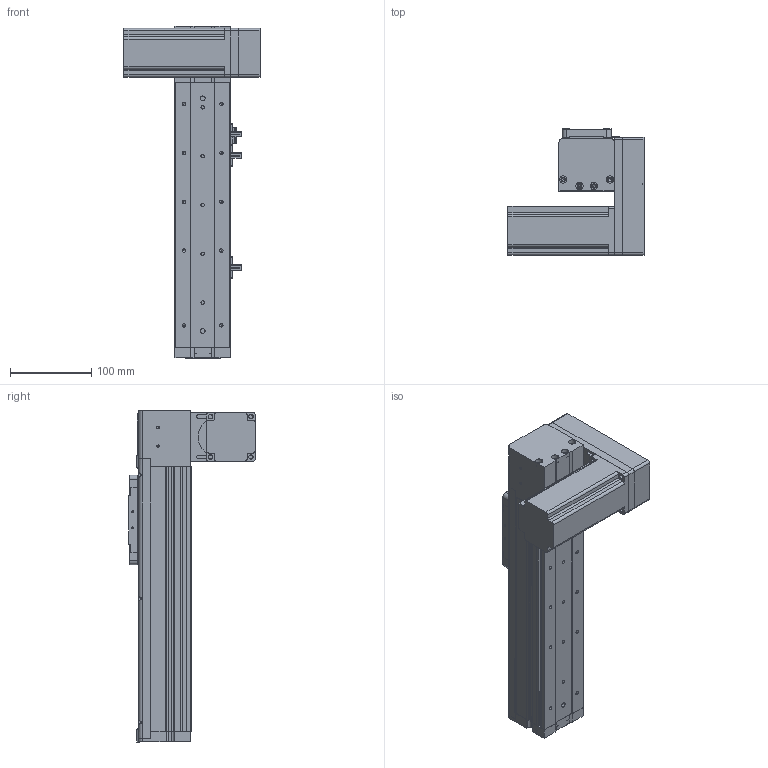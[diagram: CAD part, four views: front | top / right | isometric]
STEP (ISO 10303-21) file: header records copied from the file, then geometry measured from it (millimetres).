
FILE_DESCRIPTION (( 'STEP AP214' ), '1' );
FILE_NAME ('KSD68BS-S150-MLD-CR.STEP', '2019-11-07T05:24:46', ( '微软用户' ), ( '微软中国' ), 'SwSTEP 2.0', 'SolidWorks 2014', '' );
FILE_SCHEMA (( 'AUTOMOTIVE_DESIGN' ));
Length unit declared in the file: millimetre
Products named in the file (14): 68宽马达安装板连板上折同步带; 感应片68宽全封闭; U倰嫖萇EEㄜSX672; 台达ECMA－C20604AS伺服电机（400W); KSD68BS 150行程底板全封闭; KSD68BS-S150-MLD-CR; 68遵裔啣揤啣1; KSD68BS 150行程盖板全封闭; 68宽单导轨全封闭丝杆传动安装板1防护罩; KSD68BS 150行程侧板全封闭; 68宽单导轨全封闭同步带端板; 68单导轨全封闭同步带电机座左; 68单导轨全封闭同步带安装板; 悵誘欶奻狟殏
Assembly tree (17 placements, depth 2):
  KSD68BS-S150-MLD-CR
    KSD68BS 150行程底板全封闭
    台达ECMA－C20604AS伺服电机（400W)
    U倰嫖萇EEㄜSX672  x3
    感应片68宽全封闭
    68宽马达安装板连板上折同步带
    悵誘欶奻狟殏
    68单导轨全封闭同步带安装板
    68单导轨全封闭同步带电机座左
    68宽单导轨全封闭同步带端板
    KSD68BS 150行程侧板全封闭  x2
    68宽单导轨全封闭丝杆传动安装板1防护罩
    68遵裔啣揤啣1  x2
    KSD68BS 150行程盖板全封闭
Bounding box: 167.2 x 155.5 x 408.1 mm (x, y, z)
Volume: 1390905.4 mm3; surface area: 431942.7 mm2
Topology: 18 solids, 18 shells, 1375 faces, 3861 edges, 2484 vertices
Faces by surface type: plane 625, cylinder 618, cone 132
Entity records: 42425 total; most frequent: CARTESIAN_POINT 7175, DIRECTION 6424, ORIENTED_EDGE 6166, EDGE_CURVE 3083, AXIS2_PLACEMENT_3D 2281, VERTEX_POINT 2022, VECTOR 1862, LINE 1862
